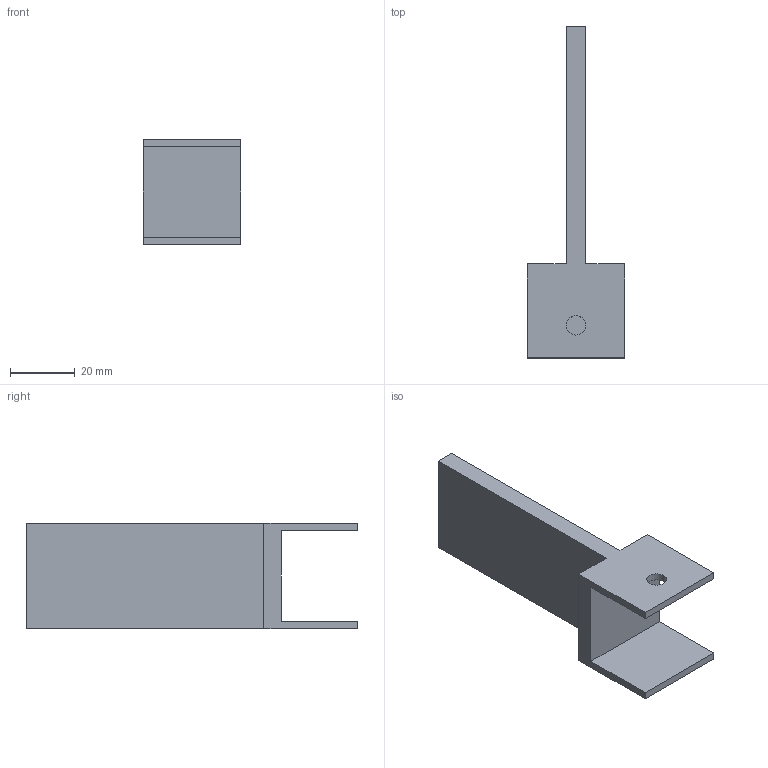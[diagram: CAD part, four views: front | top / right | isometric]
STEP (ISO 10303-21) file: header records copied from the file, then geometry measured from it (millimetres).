
FILE_DESCRIPTION (( 'STEP AP214' ), '1' );
FILE_NAME ('JB-552L.step', '2023-12-26T01:15:33', ( 'catia' ), ( 'HP Inc.' ), 'SwSTEP 2.0', 'SolidWorks 2021', '' );
FILE_SCHEMA (( 'AUTOMOTIVE_DESIGN' ));
Length unit declared in the file: millimetre
Products named in the file (1): JB-552L
Bounding box: 30 x 102.4 x 32.6 mm (x, y, z)
Volume: 22746 mm3; surface area: 11334.9 mm2
Topology: 1 solids, 1 shells, 16 faces, 42 edges, 28 vertices
Faces by surface type: plane 14, cylinder 2
Entity records: 528 total; most frequent: CARTESIAN_POINT 87, ORIENTED_EDGE 84, DIRECTION 80, EDGE_CURVE 42, VECTOR 38, LINE 38, VERTEX_POINT 28, AXIS2_PLACEMENT_3D 21
